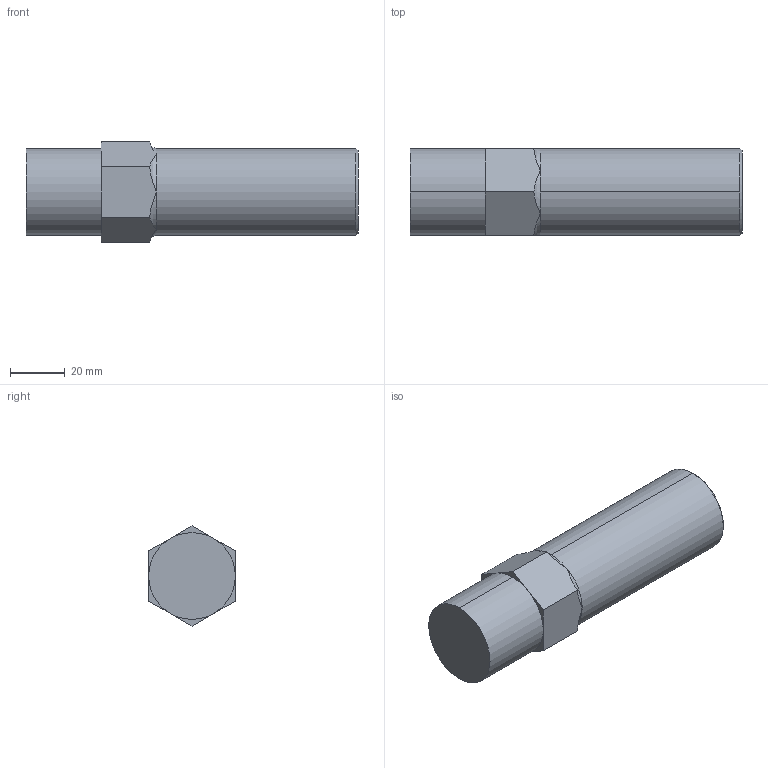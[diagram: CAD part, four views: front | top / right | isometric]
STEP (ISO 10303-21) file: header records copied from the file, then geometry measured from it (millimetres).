
FILE_DESCRIPTION (( 'STEP AP214' ), '1' );
FILE_NAME ('Fitting Tubeout 20.STEP', '2012-09-26T21:52:16', ( '' ), ( '' ), 'SwSTEP 2.0', 'SolidWorks 2012', '' );
FILE_SCHEMA (( 'AUTOMOTIVE_DESIGN' ));
Length unit declared in the file: inch
Products named in the file (1): Fitting Tubeout 20
Bounding box: 121.56 x 31.75 x 36.66 mm (x, y, z)
Volume: 97731.7 mm3; surface area: 13966.3 mm2
Topology: 1 solids, 1 shells, 33 faces, 78 edges, 47 vertices
Faces by surface type: plane 20, torus 7, cylinder 4, cone 2
Entity records: 1089 total; most frequent: CARTESIAN_POINT 251, DIRECTION 164, ORIENTED_EDGE 156, EDGE_CURVE 78, AXIS2_PLACEMENT_3D 64, VERTEX_POINT 47, LINE 36, VECTOR 36
